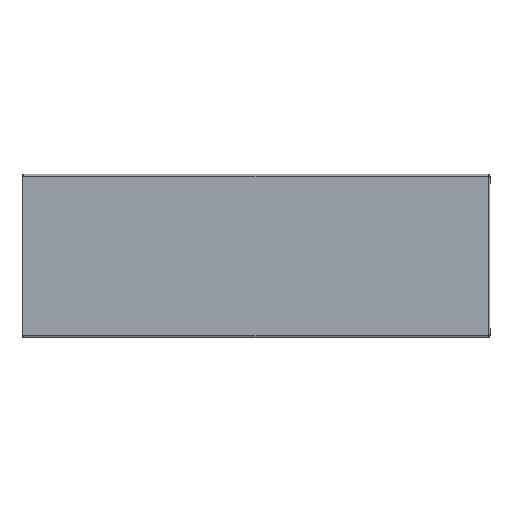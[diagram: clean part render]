
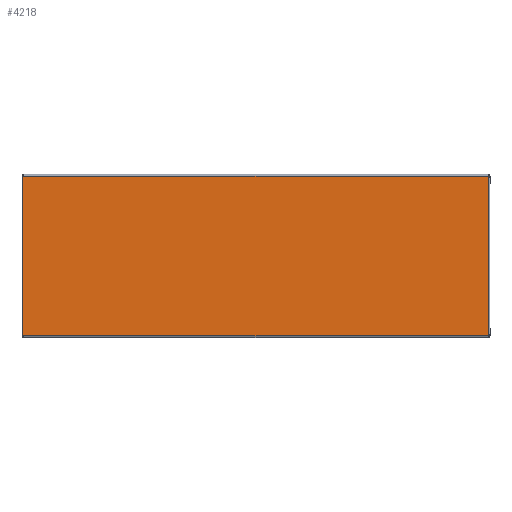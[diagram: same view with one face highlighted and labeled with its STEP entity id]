
A CAD part, top view. The second image highlights one B-rep face of the part: STEP entity #4218.
In plain terms, the highlighted planar face has unit normal (0, 0, 1).
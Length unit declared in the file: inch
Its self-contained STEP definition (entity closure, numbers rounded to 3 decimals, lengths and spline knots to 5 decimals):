
#448=PLANE('',#4640);
#665=FACE_OUTER_BOUND('',#961,.T.);
#961=EDGE_LOOP('',(#3601,#3602,#3603,#3604,#3605,#3606,#3607,#3608));
#1207=LINE('',#6867,#1535);
#1209=LINE('',#6876,#1537);
#1238=LINE('',#6956,#1566);
#1263=LINE('',#7017,#1591);
#1266=LINE('',#7025,#1594);
#1267=LINE('',#7027,#1595);
#1294=LINE('',#7096,#1622);
#1316=LINE('',#7144,#1644);
#1535=VECTOR('',#5458,0.3937);
#1537=VECTOR('',#5470,0.3937);
#1566=VECTOR('',#5551,0.3937);
#1591=VECTOR('',#5612,0.3937);
#1594=VECTOR('',#5621,0.3937);
#1595=VECTOR('',#5624,0.3937);
#1622=VECTOR('',#5715,0.3937);
#1644=VECTOR('',#5767,0.3937);
#1937=VERTEX_POINT('',#6861);
#1939=VERTEX_POINT('',#6865);
#1941=VERTEX_POINT('',#6874);
#1964=VERTEX_POINT('',#6952);
#1966=VERTEX_POINT('',#6955);
#1982=VERTEX_POINT('',#7005);
#1984=VERTEX_POINT('',#7013);
#1986=VERTEX_POINT('',#7023);
#2409=EDGE_CURVE('',#1937,#1939,#1207,.T.);
#2414=EDGE_CURVE('',#1939,#1941,#1209,.T.);
#2453=EDGE_CURVE('',#1966,#1964,#1238,.T.);
#2484=EDGE_CURVE('',#1984,#1982,#1263,.T.);
#2489=EDGE_CURVE('',#1982,#1986,#1266,.T.);
#2490=EDGE_CURVE('',#1941,#1984,#1267,.T.);
#2527=EDGE_CURVE('',#1986,#1966,#1294,.T.);
#2550=EDGE_CURVE('',#1964,#1937,#1316,.T.);
#3601=ORIENTED_EDGE('',*,*,#2490,.T.);
#3602=ORIENTED_EDGE('',*,*,#2484,.T.);
#3603=ORIENTED_EDGE('',*,*,#2489,.T.);
#3604=ORIENTED_EDGE('',*,*,#2527,.T.);
#3605=ORIENTED_EDGE('',*,*,#2453,.T.);
#3606=ORIENTED_EDGE('',*,*,#2550,.T.);
#3607=ORIENTED_EDGE('',*,*,#2409,.T.);
#3608=ORIENTED_EDGE('',*,*,#2414,.T.);
#4218=ADVANCED_FACE('',(#665),#448,.T.);
#4640=AXIS2_PLACEMENT_3D('',#7145,#5768,#5769);
#5458=DIRECTION('',(1.,0.,0.));
#5470=DIRECTION('',(1.,0.,0.));
#5551=DIRECTION('',(-1.,0.,0.));
#5612=DIRECTION('',(0.,1.,0.));
#5621=DIRECTION('',(0.,1.,0.));
#5624=DIRECTION('',(0.,1.,0.));
#5715=DIRECTION('',(-1.,0.,0.));
#5767=DIRECTION('',(0.,-1.,0.));
#5768=DIRECTION('center_axis',(0.,0.,1.));
#5769=DIRECTION('ref_axis',(1.,0.,0.));
#6861=CARTESIAN_POINT('',(-18.85,-6.425,0.));
#6865=CARTESIAN_POINT('',(-18.7,-6.425,0.));
#6867=CARTESIAN_POINT('',(-14.1375,-6.425,0.));
#6874=CARTESIAN_POINT('',(18.7,-6.425,0.));
#6876=CARTESIAN_POINT('',(-14.1375,-6.425,0.));
#6952=CARTESIAN_POINT('',(-18.85,6.425,0.));
#6955=CARTESIAN_POINT('',(-18.7,6.425,0.));
#6956=CARTESIAN_POINT('',(4.7125,6.425,0.));
#7005=CARTESIAN_POINT('',(18.7,6.35,0.));
#7013=CARTESIAN_POINT('',(18.7,-6.35,0.));
#7017=CARTESIAN_POINT('',(18.7,-1.56875,0.));
#7023=CARTESIAN_POINT('',(18.7,6.425,0.));
#7025=CARTESIAN_POINT('',(18.7,-1.56875,0.));
#7027=CARTESIAN_POINT('',(18.7,-1.56875,0.));
#7096=CARTESIAN_POINT('',(4.7125,6.425,0.));
#7144=CARTESIAN_POINT('',(-18.85,6.575,0.));
#7145=CARTESIAN_POINT('Origin',(-9.425,3.2875,0.));
